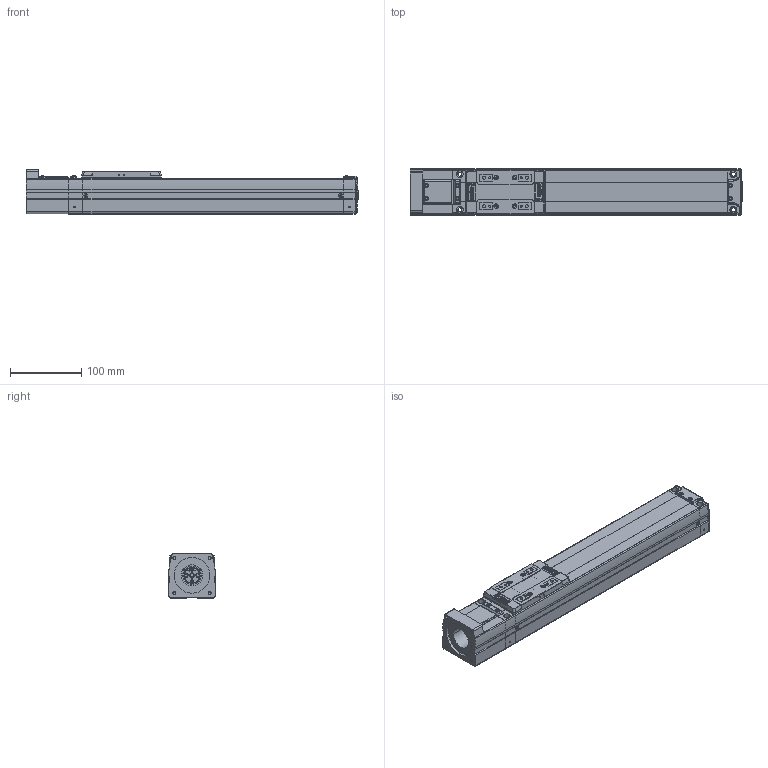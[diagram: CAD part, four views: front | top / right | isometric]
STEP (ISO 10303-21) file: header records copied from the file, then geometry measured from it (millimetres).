
FILE_DESCRIPTION(('STEP AP203'),'1');
FILE_NAME('Z:/Web/3D/SAN65/2012.ver/STP/250/SAN65ㅁㅁ-250S.stp','2014-06-13T06:01:24',(' '),(' '),'Spatial InterOp 3D',' ',' ');
FILE_SCHEMA(('CONFIG_CONTROL_DESIGN'));
Length unit declared in the file: millimetre
Products named in the file (56): 1; 2; 3; 4; 5; 6; 7; 8; 9; 10; 11; 12; 13; 14; 15; 16; 17; 18; 19; 20; 21; 22; 23; 24; 25; 26; 27; 28; 29; 30; 31; 32; 33; 34; 35; 36; 37; 38; 39; 40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
Bounding box: 466.15 x 67.13 x 62 mm (x, y, z)
Volume: 1476845.9 mm3; surface area: 209354.2 mm2
Topology: 56 solids, 56 shells, 2256 faces, 5935 edges, 3840 vertices
Faces by surface type: plane 1036, cylinder 840, cone 290, sphere 36, bspline 28, torus 20, extrusion 6
Full cylindrical faces by diameter (mm): 2.132 x1, 3.5 x2, 6 x2
Entity records: 75807 total; most frequent: CARTESIAN_POINT 15959, DIRECTION 12488, ORIENTED_EDGE 11730, EDGE_CURVE 5865, AXIS2_PLACEMENT_3D 4569, VERTEX_POINT 3839, VECTOR 3350, LINE 3344
